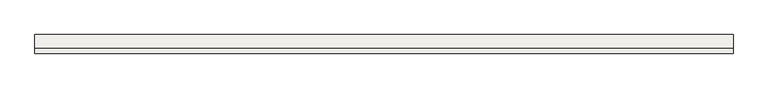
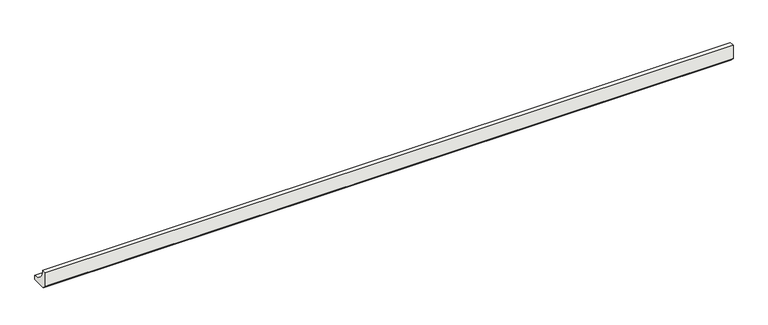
"""IFC4 building model written with IfcOpenShell, lengths in millimetres: slab geometry, ROSA GRES_188 : Pieza 188_Tresor_Java_Anti-Slip."""

from ifc_helpers import new_model, si_unit, point, frame, frame_2d, origin, place, context, project, spatial, polyline, circle_curve, trimmed, segment, composite_curve, outline, extrude, source, transform, mapped, element, save


def slab_f62a39c5(model_context):
    return source(origin(), model_context, "Body", "SweptSolid", [
        extrude(outline(composite_curve([segment(polyline([(0.0, 8.7114978), (0.0, 40.0), (9.9734114, 40.0)]), True, "CONTINUOUS"), segment(trimmed(circle_curve(frame_2d((39.9955547, 39.9955547)), 30.0221435), [point((9.9734114, 40.0))], [point((40.0, 9.9734114))], True, "CARTESIAN"), True, "CONTINUOUS"), segment(polyline([(40.0, 9.9734114), (40.0, 0.0), (8.7114978, 0.0), (0.0, 8.7114978)]), True, "CONTINUOUS")], self_intersect=False)), frame((0.0, 0.0, 0.0), z_axis=(1.0, 0.0, 0.0), x_axis=(0.0, 1.0, 0.0)), (0.0, 0.0, 1.0), 1500.0),
    ])


if __name__ == "__main__":
    model = new_model("IFC4")
    model_context = context("Model", 3, world=origin())
    ifc_project = project(units=[si_unit("LENGTHUNIT", "METRE", prefix="MILLI")], contexts=[model_context])
    site = spatial("IfcSite", under=ifc_project)
    building = spatial("IfcBuilding", under=site)
    placement = place(None, origin())
    slab_shape = slab_f62a39c5(model_context)
    element("IfcSlab", 1, ObjectType="ROSA GRES_188 : Pieza 188_Tresor_Java_Anti-Slip", at=placement, inside=building, context=model_context, shape_type="MappedRepresentation", body=[
        mapped(slab_shape, transform((0.0, 0.0, 0.0), x_axis=(1.0, 0.0, 0.0), y_axis=(0.0, 1.0, 0.0), z_axis=(0.0, 0.0, 1.0))),
    ])
    save(model, "model.ifc")
